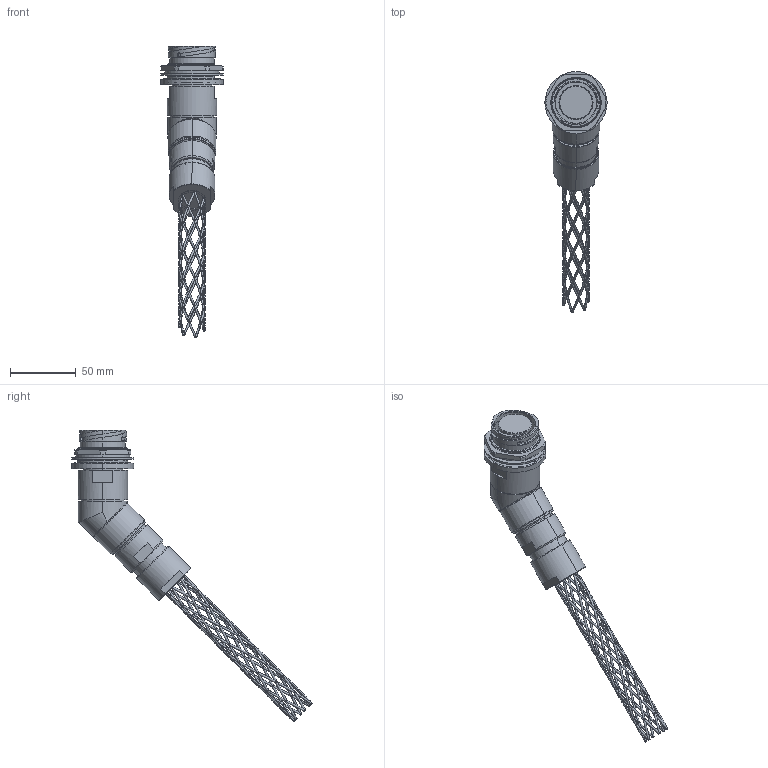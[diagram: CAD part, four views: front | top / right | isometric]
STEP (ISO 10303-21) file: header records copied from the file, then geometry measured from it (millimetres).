
FILE_DESCRIPTION (( 'STEP AP214' ), '1' );
FILE_NAME ('QLINK45-RJBX-21XX-GXXX-RA.STEP', '2025-12-17T16:35:24', ( '' ), ( '' ), 'SwSTEP 2.0', 'SolidWorks 2024', '' );
FILE_SCHEMA (( 'AUTOMOTIVE_DESIGN' ));
Length unit declared in the file: millimetre
Products named in the file (1): QLINK45-RJBX-21XX-GXXX-RA
Bounding box: 47.37 x 183.49 x 222.38 mm (x, y, z)
Volume: 144370.5 mm3; surface area: 39228.9 mm2
Topology: 2 solids, 2 shells, 503 faces, 1401 edges, 812 vertices
Faces by surface type: bspline 266, cylinder 92, plane 73, cone 49, torus 23
Entity records: 129847 total; most frequent: CARTESIAN_POINT 120051, ORIENTED_EDGE 2802, EDGE_CURVE 1401, DIRECTION 1307, VERTEX_POINT 812, AXIS2_PLACEMENT_3D 559, EDGE_LOOP 531, FACE_OUTER_BOUND 503
